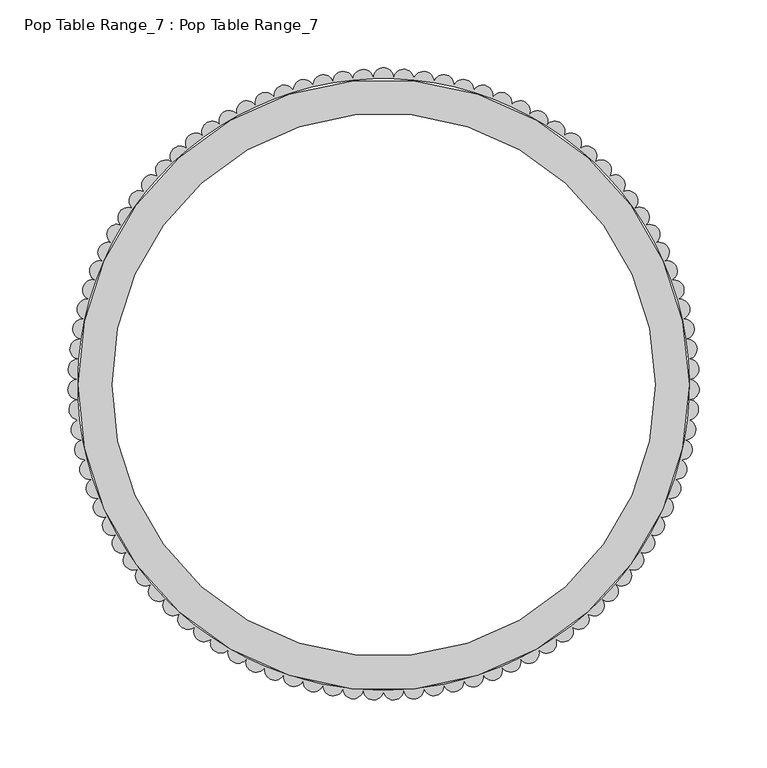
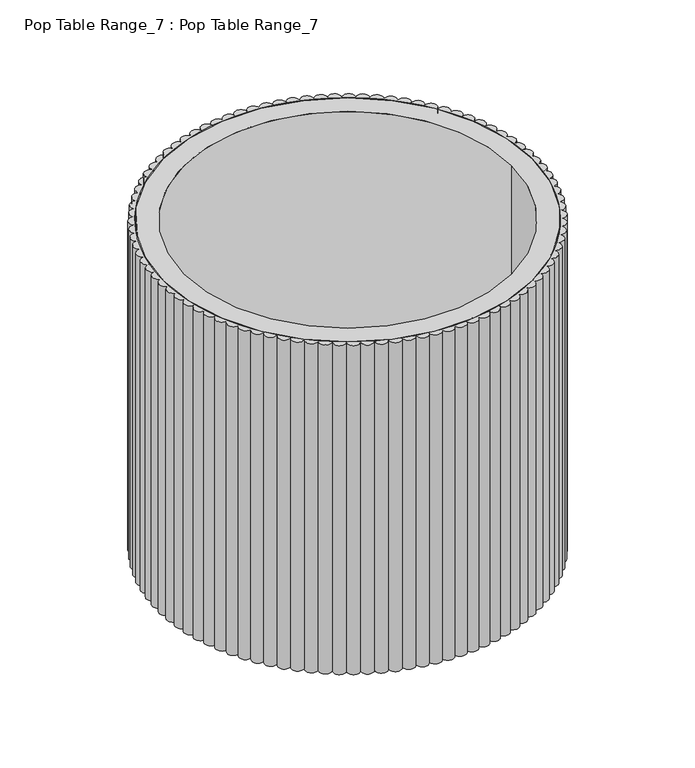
"""IFC4 building model written with IfcOpenShell, lengths in millimetres: proxy geometry, Pop Table Range_7 : Pop Table Range_7."""

from ifc_helpers import new_model, si_unit, point, frame_2d, origin, origin_with_axes, origin_2d, place, context, project, spatial, polyline, circle_curve, trimmed, segment, composite_curve, outline, extrude, source, transform, mapped, element, save


def pop_table_range_7_pop_table_range_7_13b0edd5(model_context):
    return source(origin(), model_context, "Body", "SweptSolid", [
        extrude(outline(composite_curve([segment(trimmed(circle_curve(origin_2d(), 225.0), [point((-225.0, 0.0))], [point((225.0, 0.0))], False, "CARTESIAN"), True, "CONTINUOUS"), segment(trimmed(circle_curve(origin_2d(), 225.0), [point((225.0, 0.0))], [point((-225.0, 0.0))], False, "CARTESIAN"), True, "CONTINUOUS")], self_intersect=False), holes=[composite_curve([segment(trimmed(circle_curve(origin_2d(), 200.0), [point((-200.0, 0.0))], [point((200.0, 0.0))], True, "CARTESIAN"), True, "CONTINUOUS"), segment(trimmed(circle_curve(origin_2d(), 200.0), [point((200.0, 0.0))], [point((-200.0, 0.0))], True, "CARTESIAN"), True, "CONTINUOUS")], self_intersect=False)]), origin_with_axes(), (0.0, 0.0, 1.0), 425.0),
        extrude(outline(composite_curve([segment(trimmed(circle_curve(frame_2d((-224.177145, -18.2338193)), 7.5133095), [point((-224.3934044, -25.7440158))], [point((-225.6265926, -10.8616473))], False, "CARTESIAN"), True, "CONTINUOUS"), segment(trimmed(circle_curve(frame_2d((-225.0133491, -3.383799)), 7.5029516), [point((-225.6265926, -10.8616473))], [point((-226.1522053, 4.0322168))], False, "CARTESIAN"), True, "CONTINUOUS"), segment(trimmed(circle_curve(frame_2d((-224.7021099, 11.4880229)), 7.5955133), [point((-226.1522053, 4.0322168))], [point((-225.4066107, 19.0507937))], False, "CARTESIAN"), True, "CONTINUOUS"), segment(trimmed(circle_curve(frame_2d((-223.5070953, 26.3126336)), 7.5061626), [point((-225.4066107, 19.0507937))], [point((-223.4084723, 33.8181483))], False, "CARTESIAN"), True, "CONTINUOUS"), segment(trimmed(circle_curve(frame_2d((-221.3622104, 41.0337265)), 7.5001171), [point((-223.4084723, 33.8181483))], [point((-220.7073157, 48.5051969))], False, "CARTESIAN"), True, "CONTINUOUS"), segment(trimmed(circle_curve(frame_2d((-218.2441214, 55.5838089)), 7.4949365), [point((-220.7073157, 48.5051969))], [point((-217.0413892, 62.9816132))], False, "CARTESIAN"), True, "CONTINUOUS"), segment(trimmed(circle_curve(frame_2d((-214.1081375, 69.8794811)), 7.4956352), [point((-217.0413892, 62.9816132))], [point((-212.426723, 77.1840955))], False, "CARTESIAN"), True, "CONTINUOUS"), segment(trimmed(circle_curve(frame_2d((-209.0630766, 83.8806482)), 7.4938598), [point((-212.426723, 77.1840955))], [point((-206.8834954, 91.0505408))], False, "CARTESIAN"), True, "CONTINUOUS"), segment(trimmed(circle_curve(frame_2d((-202.8416969, 97.393871)), 7.5215671), [point((-206.8834954, 91.0505408))], [point((-200.4359417, 104.5203227))], False, "CARTESIAN"), True, "CONTINUOUS"), segment(trimmed(circle_curve(frame_2d((-196.2333878, 110.7231307)), 7.4924153), [point((-200.4359417, 104.5203227))], [point((-193.1122694, 117.5345114))], False, "CARTESIAN"), True, "CONTINUOUS"), segment(trimmed(circle_curve(frame_2d((-188.0203114, 123.126768)), 7.5631587), [point((-193.1122694, 117.5345114))], [point((-184.9444883, 130.0362312))], False, "CARTESIAN"), True, "CONTINUOUS"), segment(trimmed(circle_curve(frame_2d((-179.8670001, 135.5602185)), 7.5030209), [point((-184.9444883, 130.0362312))], [point((-175.968319, 141.970804))], False, "CARTESIAN"), True, "CONTINUOUS"), segment(trimmed(circle_curve(frame_2d((-170.6007116, 147.2021421)), 7.4952056), [point((-175.968319, 141.970804))], [point((-166.223012, 153.2860432))], False, "CARTESIAN"), True, "CONTINUOUS"), segment(trimmed(circle_curve(frame_2d((-160.429096, 158.0604069)), 7.507597), [point((-166.223012, 153.2860432))], [point((-155.7511812, 163.9324701))], False, "CARTESIAN"), True, "CONTINUOUS"), segment(trimmed(circle_curve(frame_2d((-149.6605017, 168.3203327)), 7.5066448), [point((-155.7511812, 163.9324701))], [point((-144.5986171, 173.8635304))], False, "CARTESIAN"), True, "CONTINUOUS"), segment(trimmed(circle_curve(frame_2d((-138.3247901, 177.9594334)), 7.4924847), [point((-144.5986171, 173.8635304))], [point((-132.8140871, 183.0357983))], False, "CARTESIAN"), True, "CONTINUOUS"), segment(trimmed(circle_curve(frame_2d((-126.3100415, 186.7476294)), 7.4886781), [point((-132.8140871, 183.0357983))], [point((-120.449122, 191.4091657))], False, "CARTESIAN"), True, "CONTINUOUS"), segment(trimmed(circle_curve(frame_2d((-113.6307864, 194.540747)), 7.5030995), [point((-120.449122, 191.4091657))], [point((-107.5577905, 198.947018))], False, "CARTESIAN"), True, "CONTINUOUS"), segment(trimmed(circle_curve(frame_2d((-100.6260925, 201.7787877)), 7.4878138), [point((-107.5577905, 198.947018))], [point((-94.1964632, 205.6163941))], False, "CARTESIAN"), True, "CONTINUOUS"), segment(trimmed(circle_curve(frame_2d((-87.0447824, 207.8693478)), 7.4981557), [point((-94.1964632, 205.6163941))], [point((-80.423566, 211.3881305))], False, "CARTESIAN"), True, "CONTINUOUS"), segment(trimmed(circle_curve(frame_2d((-73.1513654, 213.2006193)), 7.494666), [point((-80.423566, 211.3881305))], [point((-66.2993236, 216.236989))], False, "CARTESIAN"), True, "CONTINUOUS"), segment(trimmed(circle_curve(frame_2d((-58.87798, 217.397842)), 7.5115858), [point((-66.2993236, 216.236989))], [point((-51.8854984, 220.1417667))], False, "CARTESIAN"), True, "CONTINUOUS"), segment(trimmed(circle_curve(frame_2d((-44.4142462, 220.8622564)), 7.505912), [point((-51.8854984, 220.1417667))], [point((-37.2451182, 223.0853889))], False, "CARTESIAN"), True, "CONTINUOUS"), segment(trimmed(circle_curve(frame_2d((-29.754548, 223.4004468)), 7.497193), [point((-37.2451182, 223.0853889))], [point((-22.4422015, 225.0549839))], False, "CARTESIAN"), True, "CONTINUOUS"), segment(trimmed(circle_curve(frame_2d((-14.942183, 224.798761)), 7.504394), [point((-22.4422015, 225.0549839))], [point((-7.5414779, 226.0419393))], False, "CARTESIAN"), True, "CONTINUOUS"), segment(trimmed(circle_curve(frame_2d((-0.0747912, 226.0419393)), 7.4666867), [point((-7.5414779, 226.0419393))], [point((7.3918955, 226.0419393))], False, "CARTESIAN"), True, "CONTINUOUS"), segment(trimmed(circle_curve(frame_2d((14.7993873, 224.9012244)), 7.4948093), [point((7.3918955, 226.0419393))], [point((22.2926192, 225.0549839))], False, "CARTESIAN"), True, "CONTINUOUS"), segment(trimmed(circle_curve(frame_2d((29.5985655, 223.3523455)), 7.5017218), [point((22.2926192, 225.0549839))], [point((37.0955358, 223.0853889))], False, "CARTESIAN"), True, "CONTINUOUS"), segment(trimmed(circle_curve(frame_2d((44.2816098, 220.9465385)), 7.4976223), [point((37.0955358, 223.0853889))], [point((51.7359161, 220.1417667))], False, "CARTESIAN"), True, "CONTINUOUS"), segment(trimmed(circle_curve(frame_2d((58.7554355, 217.4976477)), 7.5010011), [point((51.7359161, 220.1417667))], [point((66.1497412, 216.2369891))], False, "CARTESIAN"), True, "CONTINUOUS"), segment(trimmed(circle_curve(frame_2d((73.0152021, 213.2397083)), 7.4912111), [point((66.1497412, 216.2369891))], [point((80.2739833, 211.3881306))], False, "CARTESIAN"), True, "CONTINUOUS"), segment(trimmed(circle_curve(frame_2d((86.8750906, 207.8213638)), 7.5030956), [point((80.2739833, 211.3881306))], [point((94.0468794, 205.6163947))], False, "CARTESIAN"), True, "CONTINUOUS"), segment(trimmed(circle_curve(frame_2d((100.4653689, 201.7564691)), 7.4897285), [point((94.0468794, 205.6163947))], [point((107.4082081, 198.947018))], False, "CARTESIAN"), True, "CONTINUOUS"), segment(trimmed(circle_curve(frame_2d((113.4488881, 194.4854799)), 7.5096695), [point((107.4082081, 198.947018))], [point((120.2995396, 191.4091657))], False, "CARTESIAN"), True, "CONTINUOUS"), segment(trimmed(circle_curve(frame_2d((126.0943556, 186.650014)), 7.4986276), [point((120.2995396, 191.4091657))], [point((132.6645048, 183.0357983))], False, "CARTESIAN"), True, "CONTINUOUS"), segment(trimmed(circle_curve(frame_2d((138.2062646, 177.9993353)), 7.4884619), [point((132.6645048, 183.0357983))], [point((144.4490348, 173.8635304))], False, "CARTESIAN"), True, "CONTINUOUS"), segment(trimmed(circle_curve(frame_2d((149.5422542, 168.3555217)), 7.501936), [point((144.4490348, 173.8635304))], [point((155.6015989, 163.9324701))], False, "CARTESIAN"), True, "CONTINUOUS"), segment(trimmed(circle_curve(frame_2d((160.3740162, 158.1533597)), 7.4949372), [point((155.6015989, 163.9324701))], [point((166.0734297, 153.2860432))], False, "CARTESIAN"), True, "CONTINUOUS"), segment(trimmed(circle_curve(frame_2d((170.4575036, 147.207632)), 7.4944771), [point((166.0734297, 153.2860432))], [point((175.8187366, 141.970804))], False, "CARTESIAN"), True, "CONTINUOUS"), segment(trimmed(circle_curve(frame_2d((179.7692922, 135.599234)), 7.496919), [point((175.8187366, 141.970804))], [point((184.7949059, 130.0362312))], False, "CARTESIAN"), True, "CONTINUOUS"), segment(trimmed(circle_curve(frame_2d((188.2775273, 123.3925425)), 7.5011499), [point((184.7949059, 130.0362312))], [point((192.9626871, 117.5345114))], False, "CARTESIAN"), True, "CONTINUOUS"), segment(trimmed(circle_curve(frame_2d((196.0336983, 110.6949263)), 7.4974018), [point((192.9626871, 117.5345114))], [point((200.2863644, 104.5203117))], False, "CARTESIAN"), True, "CONTINUOUS"), segment(trimmed(circle_curve(frame_2d((202.9656635, 97.5248027)), 7.4910473), [point((200.2863644, 104.5203117))], [point((206.7339135, 91.0505397))], False, "CARTESIAN"), True, "CONTINUOUS"), segment(trimmed(circle_curve(frame_2d((208.8756525, 83.86552)), 7.4974366), [point((206.7339135, 91.0505397))], [point((212.2771406, 77.1840954))], False, "CARTESIAN"), True, "CONTINUOUS"), segment(trimmed(circle_curve(frame_2d((213.7883023, 69.8241625)), 7.5134694), [point((212.2771406, 77.1840954))], [point((216.8918068, 62.9816132))], False, "CARTESIAN"), True, "CONTINUOUS"), segment(trimmed(circle_curve(frame_2d((218.0878679, 55.5821195)), 7.4955366), [point((216.8918068, 62.9816132))], [point((220.5577333, 48.5051969))], False, "CARTESIAN"), True, "CONTINUOUS"), segment(trimmed(circle_curve(frame_2d((221.2761351, 41.0454063)), 7.494303), [point((220.5577333, 48.5051969))], [point((223.2588899, 33.8181482))], False, "CARTESIAN"), True, "CONTINUOUS"), segment(trimmed(circle_curve(frame_2d((223.4382868, 26.3220238)), 7.4982707), [point((223.2588899, 33.8181482))], [point((224.9834653, 18.9846886))], False, "CARTESIAN"), True, "CONTINUOUS"), segment(trimmed(circle_curve(frame_2d((224.7981266, 11.4996059)), 7.487377), [point((224.9834653, 18.9846886))], [point((225.7239179, 4.069685))], False, "CARTESIAN"), True, "CONTINUOUS"), segment(trimmed(circle_curve(frame_2d((224.9245043, -3.3848033)), 7.49723), [point((225.7239179, 4.069685))], [point((225.4770103, -10.8616473))], False, "CARTESIAN"), True, "CONTINUOUS"), segment(trimmed(circle_curve(frame_2d((224.4493205, -18.2687671)), 7.4780727), [point((225.4770103, -10.8616473))], [point((224.2438221, -25.7440158))], False, "CARTESIAN"), True, "CONTINUOUS"), segment(trimmed(circle_curve(frame_2d((222.4879199, -33.0309017)), 7.4954585), [point((224.2438221, -25.7440158))], [point((222.0297456, -40.5123437))], False, "CARTESIAN"), True, "CONTINUOUS"), segment(trimmed(circle_curve(frame_2d((219.8169698, -47.6718082)), 7.4936178), [point((222.0297456, -40.5123437))], [point((218.8444626, -55.102053))], False, "CARTESIAN"), True, "CONTINUOUS"), segment(trimmed(circle_curve(frame_2d((215.9336886, -62.0333089)), 7.5176402), [point((218.8444626, -55.102053))], [point((214.7019013, -69.4493465))], False, "CARTESIAN"), True, "CONTINUOUS"), segment(trimmed(circle_curve(frame_2d((211.5580859, -76.2522136)), 7.4941695), [point((214.7019013, -69.4493465))], [point((209.6201762, -83.4914872))], False, "CARTESIAN"), True, "CONTINUOUS"), segment(trimmed(circle_curve(frame_2d((205.90221, -90.0140584)), 7.5078098), [point((209.6201762, -83.4914872))], [point((203.6215084, -97.1670724))], False, "CARTESIAN"), True, "CONTINUOUS"), segment(trimmed(circle_curve(frame_2d((199.5423717, -103.4617854)), 7.5008512), [point((203.6215084, -97.1670724))], [point((196.7321285, -110.4163021))], False, "CARTESIAN"), True, "CONTINUOUS"), segment(trimmed(circle_curve(frame_2d((192.1533139, -116.3714551)), 7.5119498), [point((196.7321285, -110.4163021))], [point((188.982162, -123.181241))], False, "CARTESIAN"), True, "CONTINUOUS"), segment(trimmed(circle_curve(frame_2d((184.1909665, -128.9408586)), 7.4919122), [point((188.982162, -123.181241))], [point((180.4054976, -135.4060712))], False, "CARTESIAN"), True, "CONTINUOUS"), segment(trimmed(circle_curve(frame_2d((175.1896133, -140.7925519)), 7.4979746), [point((180.4054976, -135.4060712))], [point((171.0396387, -147.0373365))], False, "CARTESIAN"), True, "CONTINUOUS"), segment(trimmed(circle_curve(frame_2d((165.4376527, -152.0291071)), 7.503334), [point((171.0396387, -147.0373365))], [point((160.9255399, -158.0241766))], False, "CARTESIAN"), True, "CONTINUOUS"), segment(trimmed(circle_curve(frame_2d((155.0264452, -162.6563924)), 7.5004494), [point((160.9255399, -158.0241766))], [point((150.1074278, -168.3185484))], False, "CARTESIAN"), True, "CONTINUOUS"), segment(trimmed(circle_curve(frame_2d((143.8638509, -172.4892462)), 7.50846), [point((150.1074278, -168.3185484))], [point((138.632607, -177.8754377))], False, "CARTESIAN"), True, "CONTINUOUS"), segment(trimmed(circle_curve(frame_2d((132.3079709, -181.8734091)), 7.482299), [point((138.632607, -177.8754377))], [point((126.5512541, -186.6530544))], False, "CARTESIAN"), True, "CONTINUOUS"), segment(trimmed(circle_curve(frame_2d((119.9205895, -190.1359859)), 7.4897613), [point((126.5512541, -186.6530544))], [point((113.9161976, -194.6130163))], False, "CARTESIAN"), True, "CONTINUOUS"), segment(trimmed(circle_curve(frame_2d((107.060072, -197.6320565)), 7.4913992), [point((113.9161976, -194.6130163))], [point((100.7826875, -201.7205166))], False, "CARTESIAN"), True, "CONTINUOUS"), segment(trimmed(circle_curve(frame_2d((93.6144423, -204.0015787)), 7.522432), [point((100.7826875, -201.7205166))], [point((87.2081529, -207.944476))], False, "CARTESIAN"), True, "CONTINUOUS"), segment(trimmed(circle_curve(frame_2d((80.0683886, -210.1764327)), 7.480499), [point((87.2081529, -207.944476))], [point((73.2519532, -213.2576782))], False, "CARTESIAN"), True, "CONTINUOUS"), segment(trimmed(circle_curve(frame_2d((65.9557619, -214.9329272)), 7.4860448), [point((73.2519532, -213.2576782))], [point((58.9751138, -217.6368905))], False, "CARTESIAN"), True, "CONTINUOUS"), segment(trimmed(circle_curve(frame_2d((51.5381634, -218.6311423)), 7.5031172), [point((58.9751138, -217.6368905))], [point((44.4400641, -221.0629636))], False, "CARTESIAN"), True, "CONTINUOUS"), segment(trimmed(circle_curve(frame_2d((36.9493686, -221.5377942)), 7.5057301), [point((44.4400641, -221.0629636))], [point((29.7103623, -223.5209161))], False, "CARTESIAN"), True, "CONTINUOUS"), segment(trimmed(circle_curve(frame_2d((22.2322489, -223.7767975)), 7.48249), [point((29.7103623, -223.5209161))], [point((14.8504177, -225.0))], False, "CARTESIAN"), True, "CONTINUOUS"), segment(trimmed(circle_curve(frame_2d((7.3684594, -224.6618389)), 7.4895962), [point((14.8504177, -225.0))], [point((-0.0747912, -225.4937476))], False, "CARTESIAN"), True, "CONTINUOUS"), segment(trimmed(circle_curve(frame_2d((-7.5152032, -224.5760335)), 7.4967947), [point((-0.0747912, -225.4937476))], [point((-15.0, -225.0))], False, "CARTESIAN"), True, "CONTINUOUS"), segment(trimmed(circle_curve(frame_2d((-22.3771221, -223.7294867)), 7.4857288), [point((-15.0, -225.0))], [point((-29.8599447, -223.5209161))], False, "CARTESIAN"), True, "CONTINUOUS"), segment(trimmed(circle_curve(frame_2d((-37.0943561, -221.510259)), 7.5086251), [point((-29.8599447, -223.5209161))], [point((-44.5896465, -221.0629636))], False, "CARTESIAN"), True, "CONTINUOUS"), segment(trimmed(circle_curve(frame_2d((-51.6758501, -218.5806756)), 7.5083977), [point((-44.5896465, -221.0629636))], [point((-59.1246961, -217.6368905))], False, "CARTESIAN"), True, "CONTINUOUS"), segment(trimmed(circle_curve(frame_2d((-66.0571539, -214.7758202)), 7.4996463), [point((-59.1246961, -217.6368905))], [point((-73.4015354, -213.2576782))], False, "CARTESIAN"), True, "CONTINUOUS"), segment(trimmed(circle_curve(frame_2d((-80.1416094, -209.9758531)), 7.4965975), [point((-73.4015354, -213.2576782))], [point((-87.3577358, -207.9444757))], False, "CARTESIAN"), True, "CONTINUOUS"), segment(trimmed(circle_curve(frame_2d((-93.8513052, -204.1919378)), 7.4998656), [point((-87.3577358, -207.9444757))], [point((-100.9322699, -201.7205165))], False, "CARTESIAN"), True, "CONTINUOUS"), segment(trimmed(circle_curve(frame_2d((-107.1606683, -197.5415382)), 7.5004538), [point((-100.9322699, -201.7205165))], [point((-114.06578, -194.6130163))], False, "CARTESIAN"), True, "CONTINUOUS"), segment(trimmed(circle_curve(frame_2d((-119.9983551, -190.0219892)), 7.5015317), [point((-114.06578, -194.6130163))], [point((-126.7008364, -186.6530544))], False, "CARTESIAN"), True, "CONTINUOUS"), segment(trimmed(circle_curve(frame_2d((-132.3015279, -181.6586584)), 7.5041146), [point((-126.7008364, -186.6530544))], [point((-138.7821896, -177.8754375))], False, "CARTESIAN"), True, "CONTINUOUS"), segment(trimmed(circle_curve(frame_2d((-144.0468507, -172.5293698)), 7.5031392), [point((-138.7821896, -177.8754375))], [point((-150.2570102, -168.3185484))], False, "CARTESIAN"), True, "CONTINUOUS"), segment(trimmed(circle_curve(frame_2d((-155.0622659, -162.5368429)), 7.5178854), [point((-150.2570102, -168.3185484))], [point((-161.0751224, -158.0241765))], False, "CARTESIAN"), True, "CONTINUOUS"), segment(trimmed(circle_curve(frame_2d((-165.662794, -152.0986638)), 7.4938929), [point((-161.0751224, -158.0241765))], [point((-171.1892211, -147.0373365))], False, "CARTESIAN"), True, "CONTINUOUS"), segment(trimmed(circle_curve(frame_2d((-175.2782028, -140.7434386)), 7.5055261), [point((-171.1892211, -147.0373365))], [point((-180.5550799, -135.4060712))], False, "CARTESIAN"), True, "CONTINUOUS"), segment(trimmed(circle_curve(frame_2d((-184.2874591, -128.903612)), 7.4975082), [point((-180.5550799, -135.4060712))], [point((-189.1317444, -123.181241))], False, "CARTESIAN"), True, "CONTINUOUS"), segment(trimmed(circle_curve(frame_2d((-192.4833918, -116.4810391)), 7.4917452), [point((-189.1317444, -123.181241))], [point((-196.8817109, -110.4163021))], False, "CARTESIAN"), True, "CONTINUOUS"), segment(trimmed(circle_curve(frame_2d((-199.63127, -103.4302307)), 7.5076807), [point((-196.8817109, -110.4163021))], [point((-203.7710908, -97.1670724))], False, "CARTESIAN"), True, "CONTINUOUS"), segment(trimmed(circle_curve(frame_2d((-206.2239535, -90.0895753)), 7.490494), [point((-203.7710908, -97.1670724))], [point((-209.7697586, -83.4914872))], False, "CARTESIAN"), True, "CONTINUOUS"), segment(trimmed(circle_curve(frame_2d((-211.4968504, -76.1759205)), 7.5166723), [point((-209.7697586, -83.4914872))], [point((-214.8514837, -69.4493464))], False, "CARTESIAN"), True, "CONTINUOUS"), segment(trimmed(circle_curve(frame_2d((-216.3555828, -62.1119341)), 7.4899889), [point((-214.8514837, -69.4493464))], [point((-218.9940453, -55.1020519))], False, "CARTESIAN"), True, "CONTINUOUS"), segment(trimmed(circle_curve(frame_2d((-220.0143354, -47.6822398)), 7.4896331), [point((-218.9940453, -55.1020519))], [point((-222.1793281, -40.5123437))], False, "CARTESIAN"), True, "CONTINUOUS"), segment(trimmed(circle_curve(frame_2d((-222.5878633, -33.0234598)), 7.5000189), [point((-222.1793281, -40.5123437))], [point((-224.3934044, -25.7440158))], False, "CARTESIAN"), True, "CONTINUOUS")], self_intersect=False), holes=[polyline([(-216.3626221, 62.7856296), (-220.0170799, 48.3545019), (-222.7097861, 33.7134008), (-224.4289661, 18.9263481), (-224.9209672, 9.0159257), (-224.9209672, -10.8266166), (-223.691637, -25.6624265), (-221.4844872, -40.3845526), (-218.3091691, -54.9286189), (-214.1795676, -69.2310277), (-209.1137403, -83.2292384), (-203.133839, -96.8620403), (-196.2660121, -110.0698207), (-188.5402909, -122.7948252), (-179.990458, -134.9814107), (-170.6538997, -146.5762883), (-160.5714424, -157.5287566), (-149.787174, -167.7909232), (-138.3482515, -177.3179143), (-126.3046944, -186.0680708), (-113.7091659, -194.0031304), (-100.6167433, -201.0883953), (-87.0846763, -207.2928832), (-73.1721372, -212.5894636), (-58.939962, -216.9549758), (-44.4503844, -220.3703306), (-29.7667636, -222.8205936), (-14.9533074, -224.2950502), (-0.0747912, -224.7872532), (14.803725, -224.2950502), (29.6171812, -222.8205936), (44.300802, -220.3703306), (58.7903796, -216.9549758), (73.0225548, -212.5894636), (86.9350939, -207.2928832), (100.4671609, -201.0883953), (113.5595836, -194.0031304), (126.155112, -186.0680708), (138.1986692, -177.3179143), (149.6375917, -167.7909232), (160.4218601, -157.5287566), (170.5043174, -146.5762883), (179.8408757, -134.9814107), (188.3907086, -122.7948252), (196.1164297, -110.0698207), (202.9842566, -96.8620403), (208.964158, -83.2292384), (214.0299852, -69.2310277), (218.1595867, -54.9286189), (221.3349048, -40.3845526), (223.5420546, -25.6624265), (224.7713849, -10.8266166), (225.01752, 4.0580038), (224.2793837, 18.9263481), (222.5602038, 33.7134008), (219.8674976, 48.3545019), (216.2130397, 62.7856296), (211.6128102, 76.9436802), (206.0869247, 90.7667442), (199.6595465, 104.1943767), (192.3587808, 117.1678623), (184.2165521, 129.6304712), (175.2684642, 141.5277074), (165.5536449, 152.8075476), (155.1145745, 163.4206677), (143.9969006, 173.3206593), (132.2492378, 182.4642323), (119.9229557, 190.8114041), (107.071954, 198.3256747), (93.7524268, 204.9741861), (80.022617, 210.727866), (65.9425617, 215.5615551), (51.5738293, 219.4541169), (36.9792507, 222.3885301), (22.2226441, 224.3519634), (7.3685365, 225.3358312), (-7.5181189, 225.3358312), (-22.3722264, 224.3519634), (-37.128833, 222.3885301), (-51.7234117, 219.4541169), (-66.0921441, 215.5615551), (-80.1721994, 210.727866), (-93.9020091, 204.9741861), (-107.2215363, 198.3256747), (-120.072538, 190.8114041), (-132.3988201, 182.4642323), (-144.1464829, 173.3206593), (-155.2641569, 163.4206677), (-165.7032272, 152.8075476), (-175.4180465, 141.5277074), (-184.3661344, 129.6304712), (-192.5083632, 117.1678623), (-199.8091288, 104.1943767), (-206.2365071, 90.7667442), (-211.7623926, 76.9436802), (-216.3626221, 62.7856296)])]), origin_with_axes(), (0.0, 0.0, 1.0), 425.0),
    ])


if __name__ == "__main__":
    model = new_model("IFC4")
    model_context = context("Model", 3, world=origin())
    ifc_project = project(units=[si_unit("LENGTHUNIT", "METRE", prefix="MILLI")], contexts=[model_context])
    site = spatial("IfcSite", under=ifc_project)
    building = spatial("IfcBuilding", under=site)
    placement = place(None, origin())
    pop_table_range_7_pop_table_range_7_shape = pop_table_range_7_pop_table_range_7_13b0edd5(model_context)
    element("IfcBuildingElementProxy", 1, Name="Pop Table Range_7 : Pop Table Range_7", ObjectType="Pop Table Range_7 : Pop Table Range_7", at=placement, inside=building, context=model_context, shape_type="MappedRepresentation", body=[
        mapped(pop_table_range_7_pop_table_range_7_shape, transform((0.0, 0.0, 0.0), x_axis=(1.0, 0.0, 0.0), y_axis=(0.0, 1.0, 0.0), z_axis=(0.0, 0.0, 1.0))),
    ])
    save(model, "model.ifc")
